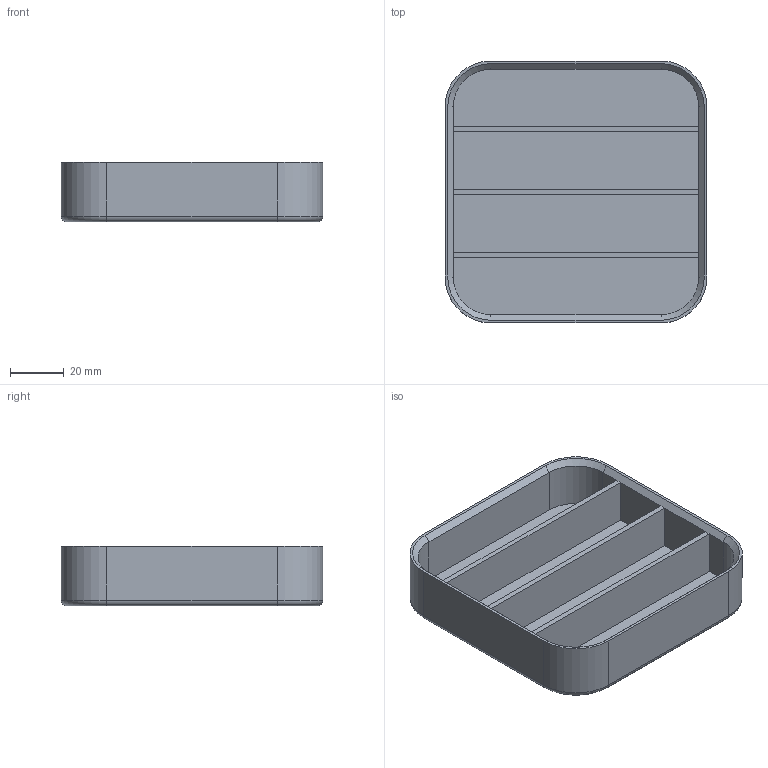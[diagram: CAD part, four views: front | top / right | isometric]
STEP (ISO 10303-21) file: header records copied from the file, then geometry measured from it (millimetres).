
FILE_DESCRIPTION(/* description */ (''),/* implementation_level */ '2;1');
FILE_NAME(/* name */ '2x2_subdivided.step',/* time_stamp */ '2026-07-04T17:37:57-03:00',/* author */ (''),/* organization */ (''),/* preprocessor_version */ 'ST-DEVELOPER v20.1',/* originating_system */ 'Autodesk Translation Framework v15.8.0.0',/* authorisation */ '');
FILE_SCHEMA (('AUTOMOTIVE_DESIGN { 1 0 10303 214 3 1 1 }'));
Length unit declared in the file: millimetre
Products named in the file (1): Internal tray parametric
Bounding box: 97 x 97 x 22 mm (x, y, z)
Volume: 55686 mm3; surface area: 41050.2 mm2
Topology: 1 solids, 1 shells, 53 faces, 122 edges, 72 vertices
Faces by surface type: plane 33, cylinder 12, torus 4, cone 4
Entity records: 1497 total; most frequent: DIRECTION 262, CARTESIAN_POINT 248, ORIENTED_EDGE 244, EDGE_CURVE 122, LINE 90, VECTOR 90, AXIS2_PLACEMENT_3D 86, VERTEX_POINT 72
